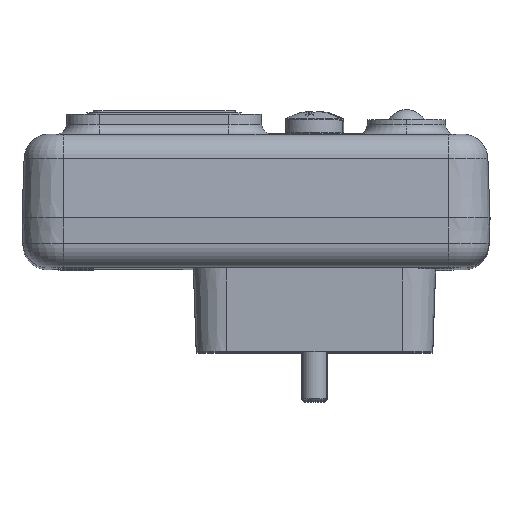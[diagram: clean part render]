
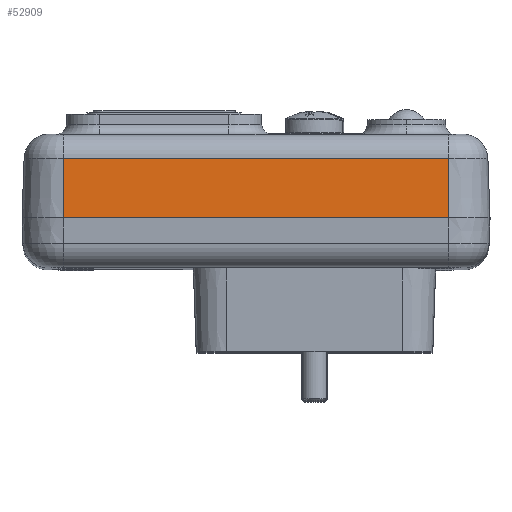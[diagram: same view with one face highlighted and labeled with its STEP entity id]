
A CAD part, top view. The second image highlights one B-rep face of the part: STEP entity #52909.
In plain terms, the highlighted planar face has unit normal (0, 0.035, 0.999).
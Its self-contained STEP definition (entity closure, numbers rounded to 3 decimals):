
#43 = CARTESIAN_POINT ( 'NONE',  ( 23., 0., 74.8 ) ) ;
#307 = VERTEX_POINT ( 'NONE', #25537 ) ;
#2253 = ORIENTED_EDGE ( 'NONE', *, *, #36992, .T. ) ;
#5706 = VERTEX_POINT ( 'NONE', #43 ) ;
#6096 = CARTESIAN_POINT ( 'NONE',  ( -23., 0., 74.8 ) ) ;
#7417 = AXIS2_PLACEMENT_3D ( 'NONE', #50768, #41676, #11417 ) ;
#9122 = EDGE_CURVE ( 'NONE', #307, #45302, #54486, .T. ) ;
#11229 = FACE_OUTER_BOUND ( 'NONE', #24426, .T. ) ;
#11417 = DIRECTION ( 'NONE',  ( 0., -0.999, 0.035 ) ) ;
#11601 = PLANE ( 'NONE',  #7417 ) ;
#12482 = DIRECTION ( 'NONE',  ( 0., -0.999, 0.035 ) ) ;
#16205 = CARTESIAN_POINT ( 'NONE',  ( -23., 0., 74.8 ) ) ;
#16758 = VECTOR ( 'NONE', #49885, 1000. ) ;
#17498 = CARTESIAN_POINT ( 'NONE',  ( 23., 0., 74.8 ) ) ;
#18294 = CARTESIAN_POINT ( 'NONE',  ( 23., 7.105, 74.552 ) ) ;
#18313 = VECTOR ( 'NONE', #30395, 1000. ) ;
#22649 = EDGE_CURVE ( 'NONE', #35042, #5706, #36971, .T. ) ;
#22906 = EDGE_CURVE ( 'NONE', #45302, #5706, #56242, .T. ) ;
#24426 = EDGE_LOOP ( 'NONE', ( #43337, #2253, #44925, #56771 ) ) ;
#25537 = CARTESIAN_POINT ( 'NONE',  ( -23., 7.105, 74.552 ) ) ;
#27698 = CARTESIAN_POINT ( 'NONE',  ( -23., 7.105, 74.552 ) ) ;
#30395 = DIRECTION ( 'NONE',  ( 0., -0.999, 0.035 ) ) ;
#35035 = CARTESIAN_POINT ( 'NONE',  ( -23., 0., 74.8 ) ) ;
#35042 = VERTEX_POINT ( 'NONE', #18294 ) ;
#36805 = LINE ( 'NONE', #27698, #16758 ) ;
#36971 = LINE ( 'NONE', #17498, #18313 ) ;
#36992 = EDGE_CURVE ( 'NONE', #35042, #307, #36805, .T. ) ;
#41676 = DIRECTION ( 'NONE',  ( 0., 0.035, 0.999 ) ) ;
#43337 = ORIENTED_EDGE ( 'NONE', *, *, #22649, .F. ) ;
#44478 = VECTOR ( 'NONE', #46008, 1000. ) ;
#44925 = ORIENTED_EDGE ( 'NONE', *, *, #9122, .T. ) ;
#45302 = VERTEX_POINT ( 'NONE', #16205 ) ;
#46008 = DIRECTION ( 'NONE',  ( 1., 0., 0. ) ) ;
#49650 = VECTOR ( 'NONE', #12482, 1000. ) ;
#49885 = DIRECTION ( 'NONE',  ( -1., 0., 0. ) ) ;
#50768 = CARTESIAN_POINT ( 'NONE',  ( -23., 0., 74.8 ) ) ;
#52909 = ADVANCED_FACE ( 'NONE', ( #11229 ), #11601, .T. ) ;
#54486 = LINE ( 'NONE', #35035, #49650 ) ;
#56242 = LINE ( 'NONE', #6096, #44478 ) ;
#56771 = ORIENTED_EDGE ( 'NONE', *, *, #22906, .T. ) ;
